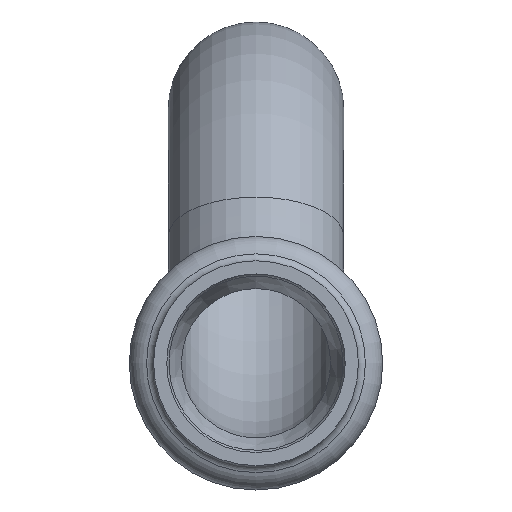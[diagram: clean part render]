
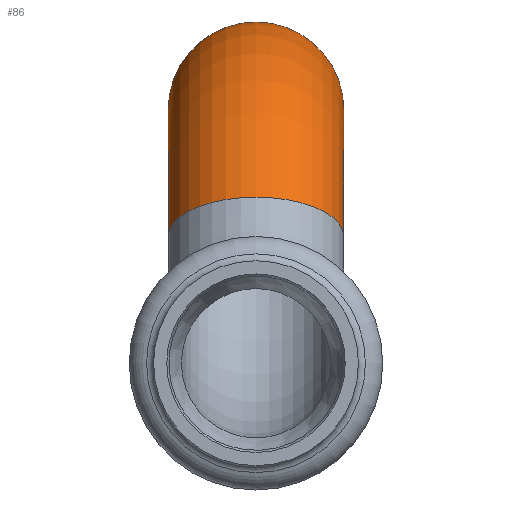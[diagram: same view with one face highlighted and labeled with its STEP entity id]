
A CAD part, front view. The second image highlights one B-rep face of the part: STEP entity #86.
In plain terms, the highlighted toroidal (fillet/blend) face has major radius 23.5 mm and minor radius 9 mm.
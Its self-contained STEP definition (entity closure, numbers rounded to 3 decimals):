
#86=ADVANCED_FACE('',(#228,#230),#232,.T.);
#228=FACE_OUTER_BOUND('',#229,.T.);
#229=EDGE_LOOP('',(#479));
#230=FACE_OUTER_BOUND('',#231,.T.);
#231=EDGE_LOOP('',(#480));
#232=TOROIDAL_SURFACE('',#233,23.5,9.);
#233=AXIS2_PLACEMENT_3D('',#234,#235,#236);
#234=CARTESIAN_POINT('',(0.,73.,2.5));
#235=DIRECTION('',(-1.,0.,0.));
#236=DIRECTION('',(0.,-0.895,0.447));
#479=ORIENTED_EDGE('',*,*,#542,.F.);
#480=ORIENTED_EDGE('',*,*,#538,.T.);
#538=EDGE_CURVE('',#591,#591,#592,.T.);
#542=EDGE_CURVE('',#599,#599,#600,.T.);
#591=VERTEX_POINT('',#710);
#592=CIRCLE('',#711,9.);
#599=VERTEX_POINT('',#730);
#600=CIRCLE('',#731,9.);
#710=CARTESIAN_POINT('',(-9.,51.976,13.));
#711=AXIS2_PLACEMENT_3D('',#712,#713,#714);
#712=CARTESIAN_POINT('',(0.,51.976,13.));
#713=DIRECTION('',(0.,0.447,0.895));
#714=DIRECTION('',(-1.,0.,0.));
#730=CARTESIAN_POINT('',(-9.,94.024,13.));
#731=AXIS2_PLACEMENT_3D('',#732,#733,#734);
#732=CARTESIAN_POINT('',(0.,94.024,13.));
#733=DIRECTION('',(0.,0.447,-0.895));
#734=DIRECTION('',(-1.,0.,0.));
